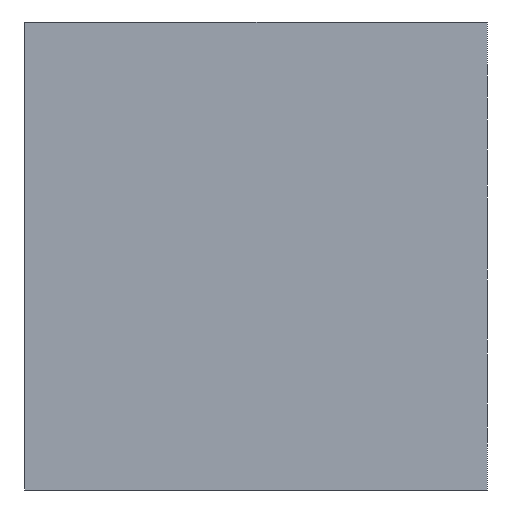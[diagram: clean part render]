
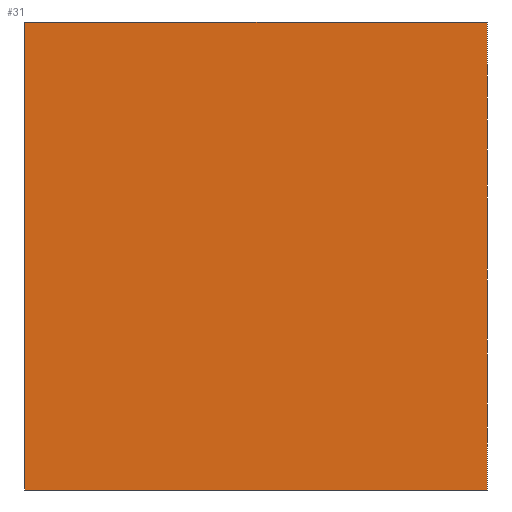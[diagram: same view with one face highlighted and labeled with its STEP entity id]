
A CAD part, left-side view. The second image highlights one B-rep face of the part: STEP entity #31.
In plain terms, the highlighted planar face has unit normal (-1, 0, 0).
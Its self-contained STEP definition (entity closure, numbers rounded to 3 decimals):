
#31 = ADVANCED_FACE ( 'NONE', ( #5424 ), #6707, .T. ) ;
#809 = ORIENTED_EDGE ( 'NONE', *, *, #4017, .T. ) ;
#1312 = EDGE_CURVE ( 'NONE', #6300, #6600, #16326, .T. ) ;
#1991 = CARTESIAN_POINT ( 'NONE',  ( 0., -19.75, 20. ) ) ;
#2600 = CARTESIAN_POINT ( 'NONE',  ( 0., 19.75, -20. ) ) ;
#2677 = CARTESIAN_POINT ( 'NONE',  ( 0., 19.75, 20. ) ) ;
#2824 = CARTESIAN_POINT ( 'NONE',  ( 0., -19.75, -20. ) ) ;
#3041 = ORIENTED_EDGE ( 'NONE', *, *, #11780, .F. ) ;
#4017 = EDGE_CURVE ( 'NONE', #6522, #10560, #7998, .T. ) ;
#4028 = DIRECTION ( 'NONE',  ( 0., 0., 1. ) ) ;
#4355 = DIRECTION ( 'NONE',  ( 0., 1., 0. ) ) ;
#4733 = DIRECTION ( 'NONE',  ( 0., 0., 1. ) ) ;
#5424 = FACE_OUTER_BOUND ( 'NONE', #13698, .T. ) ;
#5674 = LINE ( 'NONE', #14508, #9452 ) ;
#6300 = VERTEX_POINT ( 'NONE', #2824 ) ;
#6522 = VERTEX_POINT ( 'NONE', #1991 ) ;
#6600 = VERTEX_POINT ( 'NONE', #13418 ) ;
#6707 = PLANE ( 'NONE',  #13495 ) ;
#7998 = LINE ( 'NONE', #10548, #16365 ) ;
#8283 = EDGE_CURVE ( 'NONE', #6300, #6522, #13104, .T. ) ;
#9452 = VECTOR ( 'NONE', #4733, 1000. ) ;
#9471 = VECTOR ( 'NONE', #11175, 1000. ) ;
#10016 = DIRECTION ( 'NONE',  ( 0., 1., 0. ) ) ;
#10548 = CARTESIAN_POINT ( 'NONE',  ( 0., -20.457, 20. ) ) ;
#10560 = VERTEX_POINT ( 'NONE', #2677 ) ;
#11175 = DIRECTION ( 'NONE',  ( 0., 0., 1. ) ) ;
#11780 = EDGE_CURVE ( 'NONE', #6600, #10560, #5674, .T. ) ;
#12420 = DIRECTION ( 'NONE',  ( -1., 0., 0. ) ) ;
#12563 = ORIENTED_EDGE ( 'NONE', *, *, #8283, .T. ) ;
#12742 = CARTESIAN_POINT ( 'NONE',  ( 0., -20.457, -20. ) ) ;
#13104 = LINE ( 'NONE', #17971, #9471 ) ;
#13418 = CARTESIAN_POINT ( 'NONE',  ( 0., 19.75, -20. ) ) ;
#13495 = AXIS2_PLACEMENT_3D ( 'NONE', #2600, #12420, #4028 ) ;
#13698 = EDGE_LOOP ( 'NONE', ( #3041, #14212, #12563, #809 ) ) ;
#14212 = ORIENTED_EDGE ( 'NONE', *, *, #1312, .F. ) ;
#14508 = CARTESIAN_POINT ( 'NONE',  ( 0., 19.75, -20.707 ) ) ;
#16326 = LINE ( 'NONE', #12742, #17594 ) ;
#16365 = VECTOR ( 'NONE', #10016, 1000. ) ;
#17594 = VECTOR ( 'NONE', #4355, 1000. ) ;
#17971 = CARTESIAN_POINT ( 'NONE',  ( 0., -19.75, -20.707 ) ) ;
